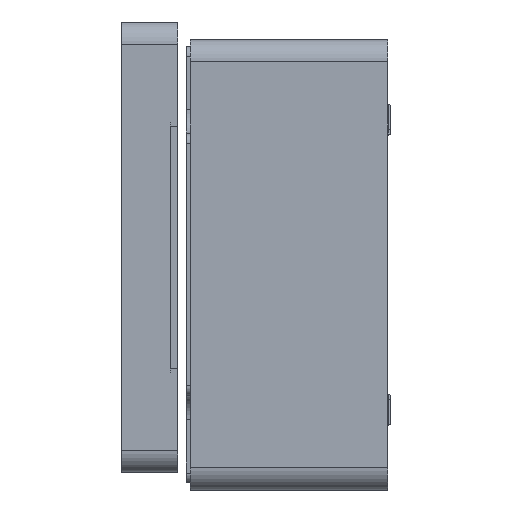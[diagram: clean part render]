
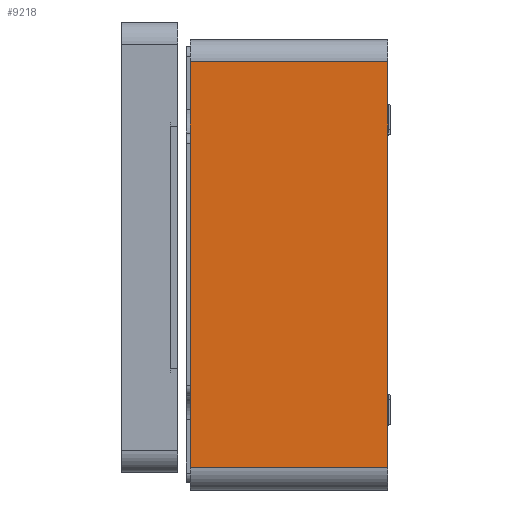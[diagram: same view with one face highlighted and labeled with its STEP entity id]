
A CAD part, left-side view. The second image highlights one B-rep face of the part: STEP entity #9218.
In plain terms, the highlighted planar face has unit normal (-1, 0, 0).
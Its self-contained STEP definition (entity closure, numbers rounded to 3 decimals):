
#444 = ORIENTED_EDGE ( 'NONE', *, *, #9311, .T. ) ;
#645 = CARTESIAN_POINT ( 'NONE',  ( -130., 0., -72. ) ) ;
#709 = CARTESIAN_POINT ( 'NONE',  ( -130., 70., -80. ) ) ;
#3563 = PLANE ( 'NONE',  #23375 ) ;
#3959 = CARTESIAN_POINT ( 'NONE',  ( -130., 70., -72. ) ) ;
#4196 = VERTEX_POINT ( 'NONE', #8860 ) ;
#5306 = EDGE_CURVE ( 'NONE', #8023, #6612, #14421, .T. ) ;
#6612 = VERTEX_POINT ( 'NONE', #645 ) ;
#7666 = VECTOR ( 'NONE', #22685, 1000. ) ;
#8023 = VERTEX_POINT ( 'NONE', #3959 ) ;
#8134 = DIRECTION ( 'NONE',  ( 1., 0., 0. ) ) ;
#8361 = DIRECTION ( 'NONE',  ( 0., -1., 0. ) ) ;
#8385 = CARTESIAN_POINT ( 'NONE',  ( -130., 70., 72. ) ) ;
#8860 = CARTESIAN_POINT ( 'NONE',  ( -130., 70., 72. ) ) ;
#9218 = ADVANCED_FACE ( 'NONE', ( #26555 ), #3563, .F. ) ;
#9311 = EDGE_CURVE ( 'NONE', #6612, #24820, #21320, .T. ) ;
#9394 = EDGE_CURVE ( 'NONE', #8023, #4196, #11479, .T. ) ;
#9455 = DIRECTION ( 'NONE',  ( 0., 0., 1. ) ) ;
#10178 = ORIENTED_EDGE ( 'NONE', *, *, #5306, .T. ) ;
#11479 = LINE ( 'NONE', #709, #13072 ) ;
#11654 = VECTOR ( 'NONE', #8361, 1000. ) ;
#13072 = VECTOR ( 'NONE', #9455, 1000. ) ;
#13368 = CARTESIAN_POINT ( 'NONE',  ( -130., 0., -80. ) ) ;
#14331 = CARTESIAN_POINT ( 'NONE',  ( -130., 70., -80. ) ) ;
#14366 = ORIENTED_EDGE ( 'NONE', *, *, #15857, .T. ) ;
#14421 = LINE ( 'NONE', #26518, #11654 ) ;
#15857 = EDGE_CURVE ( 'NONE', #24820, #4196, #25076, .T. ) ;
#20208 = CARTESIAN_POINT ( 'NONE',  ( -130., 0., 72. ) ) ;
#21320 = LINE ( 'NONE', #13368, #24677 ) ;
#21449 = DIRECTION ( 'NONE',  ( 0., 0., 1. ) ) ;
#22685 = DIRECTION ( 'NONE',  ( 0., 1., 0. ) ) ;
#23375 = AXIS2_PLACEMENT_3D ( 'NONE', #14331, #8134, #24035 ) ;
#23989 = EDGE_LOOP ( 'NONE', ( #444, #14366, #24707, #10178 ) ) ;
#24035 = DIRECTION ( 'NONE',  ( 0., 0., -1. ) ) ;
#24677 = VECTOR ( 'NONE', #21449, 1000. ) ;
#24707 = ORIENTED_EDGE ( 'NONE', *, *, #9394, .F. ) ;
#24820 = VERTEX_POINT ( 'NONE', #20208 ) ;
#25076 = LINE ( 'NONE', #8385, #7666 ) ;
#26518 = CARTESIAN_POINT ( 'NONE',  ( -130., 70., -72. ) ) ;
#26555 = FACE_OUTER_BOUND ( 'NONE', #23989, .T. ) ;
